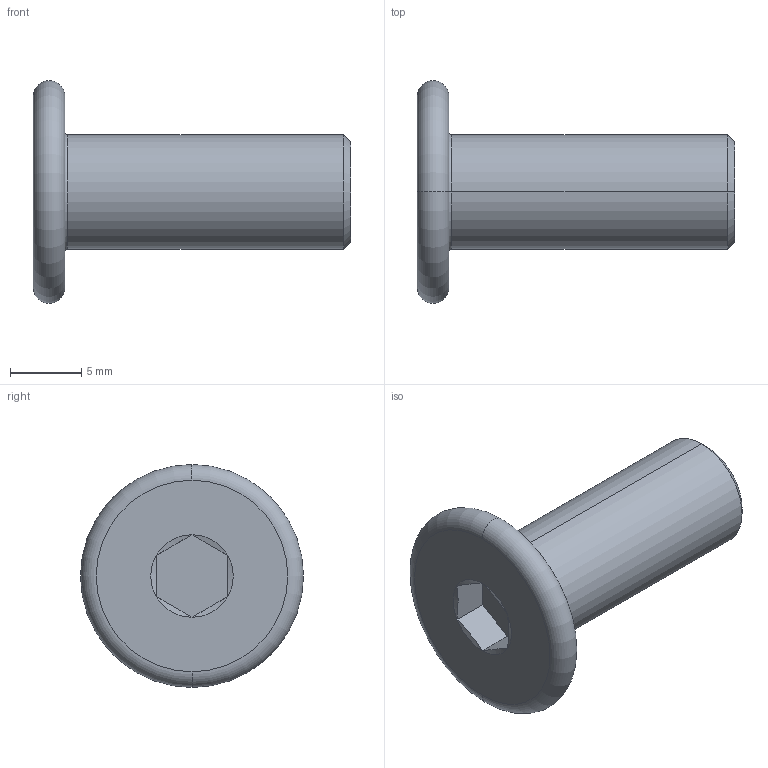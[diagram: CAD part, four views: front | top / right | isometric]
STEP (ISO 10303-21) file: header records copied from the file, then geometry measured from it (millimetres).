
FILE_DESCRIPTION (( 'STEP AP203' ), '1' );
FILE_NAME ('LGD-304M-M8x20.STEP', '2026-08-13T13:17:52', ( '' ), ( '' ), 'SwSTEP 2.0', 'SolidWorks 2020', '' );
FILE_SCHEMA (( 'CONFIG_CONTROL_DESIGN' ));
Length unit declared in the file: millimetre
Products named in the file (1): LGD-304M-M8x20
Bounding box: 22.2 x 15.6 x 15.6 mm (x, y, z)
Volume: 1344 mm3; surface area: 977.8 mm2
Topology: 1 solids, 1 shells, 24 faces, 44 edges, 24 vertices
Faces by surface type: plane 10, cone 8, torus 4, cylinder 2
Entity records: 673 total; most frequent: CARTESIAN_POINT 119, DIRECTION 110, ORIENTED_EDGE 88, AXIS2_PLACEMENT_3D 47, EDGE_CURVE 44, EDGE_LOOP 26, VERTEX_POINT 24, ADVANCED_FACE 24
